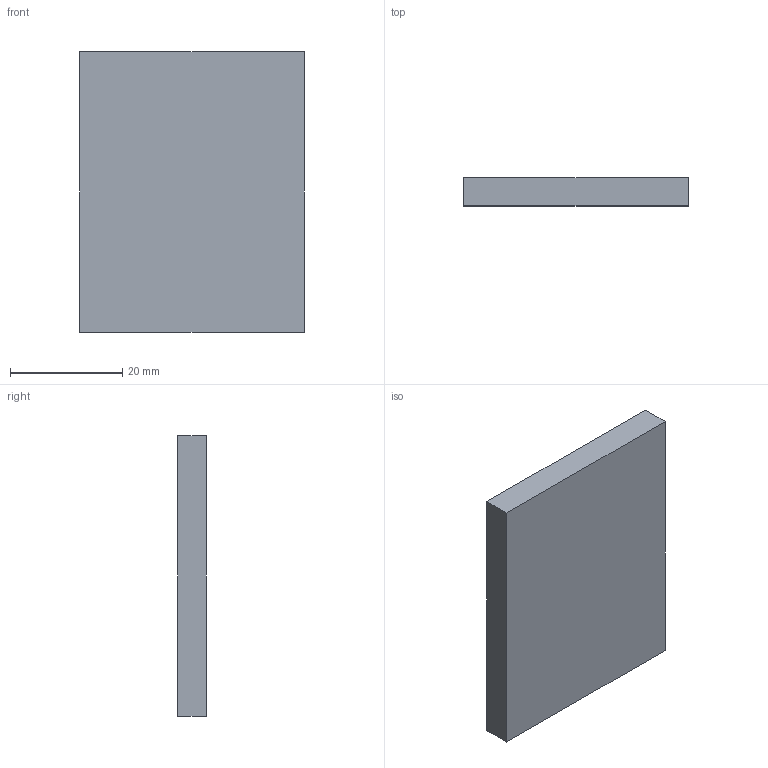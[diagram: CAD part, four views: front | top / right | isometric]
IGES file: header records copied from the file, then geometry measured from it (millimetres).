
Start section: SolidWorks IGES file using analytic representation for surfaces
Global section: file name: C:\Documents and Settings\URETIM3\Desktop\yeni katalog tolgay düzenli\E kataloðu\DÜZ LAMA PROFÝL ALPOLEN 1000\206 LMS 340.IGS; native system: SolidWorks 2006 by SolidWorks Corporation; preprocessor: SolidWorks 2006 by SolidWorks Corporation; author: URETIM3; date: 060913.085853; units: millimetre
Bounding box: 40 x 5 x 50 mm (x, y, z)
Surface area: 4900 mm2 (no closed solid volume)
Topology: 0 solids, 0 shells, 6 faces, 24 edges, 24 vertices
Faces by surface type: bspline 6
